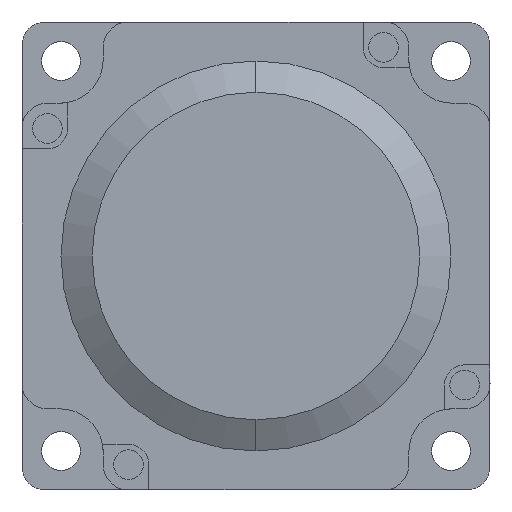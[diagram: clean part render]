
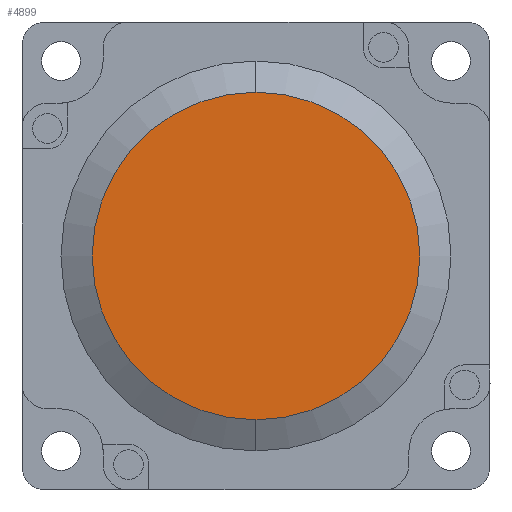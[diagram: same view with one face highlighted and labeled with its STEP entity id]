
A CAD part, front view. The second image highlights one B-rep face of the part: STEP entity #4899.
In plain terms, the highlighted planar face has unit normal (0, -1, 0).
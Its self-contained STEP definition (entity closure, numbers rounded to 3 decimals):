
#685 = AXIS2_PLACEMENT_3D ( 'NONE', #5152, #6777, #8445 ) ;
#753 = AXIS2_PLACEMENT_3D ( 'NONE', #1611, #10615, #4874 ) ;
#796 = PLANE ( 'NONE',  #753 ) ;
#850 = DIRECTION ( 'NONE',  ( 0., 1., 0. ) ) ;
#987 = CIRCLE ( 'NONE', #685, 21. ) ;
#1047 = EDGE_LOOP ( 'NONE', ( #1352, #10205 ) ) ;
#1072 = EDGE_CURVE ( 'NONE', #9276, #1138, #9342, .T. ) ;
#1138 = VERTEX_POINT ( 'NONE', #3358 ) ;
#1352 = ORIENTED_EDGE ( 'NONE', *, *, #1072, .F. ) ;
#1611 = CARTESIAN_POINT ( 'NONE',  ( 30., -2.3, -30. ) ) ;
#1633 = CARTESIAN_POINT ( 'NONE',  ( 30., -2.3, -30. ) ) ;
#3358 = CARTESIAN_POINT ( 'NONE',  ( 30., -2.3, -51. ) ) ;
#4874 = DIRECTION ( 'NONE',  ( 0., 0., 1. ) ) ;
#4899 = ADVANCED_FACE ( 'NONE', ( #7278 ), #796, .F. ) ;
#5152 = CARTESIAN_POINT ( 'NONE',  ( 30., -2.3, -30. ) ) ;
#5672 = EDGE_CURVE ( 'NONE', #1138, #9276, #987, .T. ) ;
#5754 = DIRECTION ( 'NONE',  ( 0., 0., 1. ) ) ;
#5962 = AXIS2_PLACEMENT_3D ( 'NONE', #1633, #850, #5754 ) ;
#6777 = DIRECTION ( 'NONE',  ( 0., 1., 0. ) ) ;
#7147 = CARTESIAN_POINT ( 'NONE',  ( 30., -2.3, -9. ) ) ;
#7278 = FACE_OUTER_BOUND ( 'NONE', #1047, .T. ) ;
#8445 = DIRECTION ( 'NONE',  ( 0., 0., 1. ) ) ;
#9276 = VERTEX_POINT ( 'NONE', #7147 ) ;
#9342 = CIRCLE ( 'NONE', #5962, 21. ) ;
#10205 = ORIENTED_EDGE ( 'NONE', *, *, #5672, .F. ) ;
#10615 = DIRECTION ( 'NONE',  ( 0., 1., 0. ) ) ;
